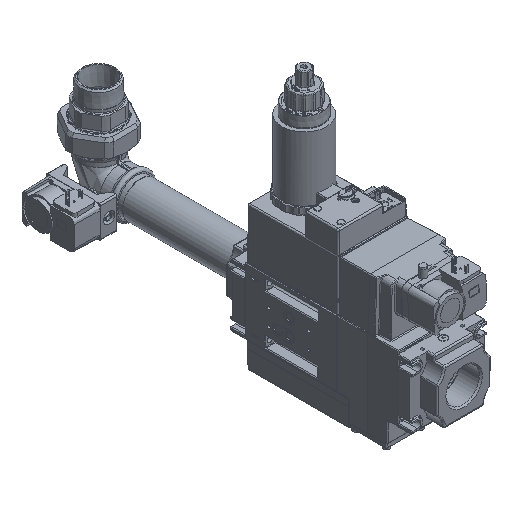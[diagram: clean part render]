
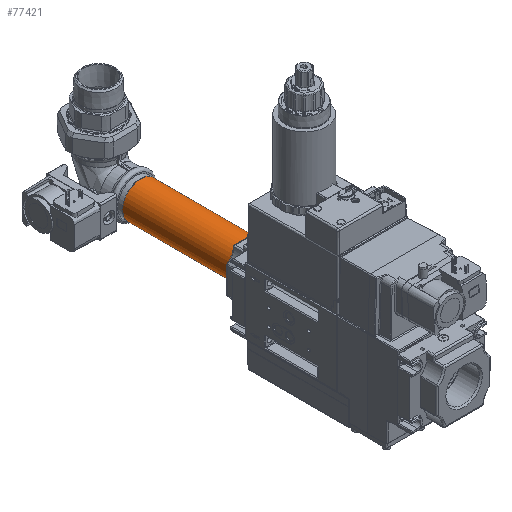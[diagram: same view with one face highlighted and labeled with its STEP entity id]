
A CAD part, isometric view. The second image highlights one B-rep face of the part: STEP entity #77421.
In plain terms, the highlighted cylindrical face has radius 24.15 mm (diameter 48.3 mm), a full revolution.
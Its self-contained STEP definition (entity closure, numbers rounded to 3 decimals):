
#1320 = EDGE_LOOP ( 'NONE', ( #90851 ) ) ;
#1512 = ORIENTED_EDGE ( 'NONE', *, *, #84620, .F. ) ;
#5227 = CARTESIAN_POINT ( 'NONE',  ( 226.716, -199.42, 67.131 ) ) ;
#5281 = AXIS2_PLACEMENT_3D ( 'NONE', #103357, #92697, #38640 ) ;
#8373 = EDGE_CURVE ( 'NONE', #11823, #11823, #56477, .T. ) ;
#10627 = DIRECTION ( 'NONE',  ( 0.039, 0., 0.999 ) ) ;
#11823 = VERTEX_POINT ( 'NONE', #93800 ) ;
#37935 = DIRECTION ( 'NONE',  ( 0., 1., 0. ) ) ;
#38640 = DIRECTION ( 'NONE',  ( 0.039, 0., 0.999 ) ) ;
#56477 = CIRCLE ( 'NONE', #5281, 24.15 ) ;
#61678 = DIRECTION ( 'NONE',  ( 0.039, 0., 0.999 ) ) ;
#62423 = AXIS2_PLACEMENT_3D ( 'NONE', #92019, #37935, #10627 ) ;
#68800 = FACE_OUTER_BOUND ( 'NONE', #1320, .T. ) ;
#70584 = CYLINDRICAL_SURFACE ( 'NONE', #117072, 24.15 ) ;
#77421 = ADVANCED_FACE ( 'NONE', ( #68800, #105018 ), #70584, .T. ) ;
#84620 = EDGE_CURVE ( 'NONE', #114538, #114538, #113625, .T. ) ;
#87232 = CARTESIAN_POINT ( 'NONE',  ( 225.768, -524.42, 43. ) ) ;
#90851 = ORIENTED_EDGE ( 'NONE', *, *, #8373, .T. ) ;
#92019 = CARTESIAN_POINT ( 'NONE',  ( 225.768, -199.42, 43. ) ) ;
#92697 = DIRECTION ( 'NONE',  ( 0., 1., 0. ) ) ;
#93800 = CARTESIAN_POINT ( 'NONE',  ( 226.716, -349.42, 67.131 ) ) ;
#103357 = CARTESIAN_POINT ( 'NONE',  ( 225.768, -349.42, 43. ) ) ;
#104672 = EDGE_LOOP ( 'NONE', ( #1512 ) ) ;
#105018 = FACE_OUTER_BOUND ( 'NONE', #104672, .T. ) ;
#106781 = DIRECTION ( 'NONE',  ( 0., 1., 0. ) ) ;
#113625 = CIRCLE ( 'NONE', #62423, 24.15 ) ;
#114538 = VERTEX_POINT ( 'NONE', #5227 ) ;
#117072 = AXIS2_PLACEMENT_3D ( 'NONE', #87232, #106781, #61678 ) ;
